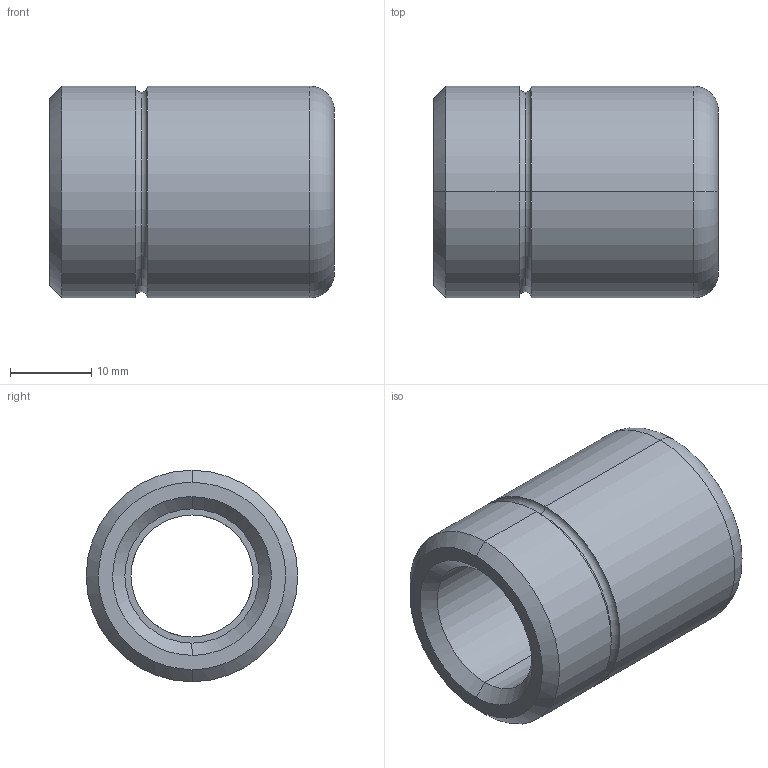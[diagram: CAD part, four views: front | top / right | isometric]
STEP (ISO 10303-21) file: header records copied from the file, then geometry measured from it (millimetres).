
FILE_DESCRIPTION(('CATIA V5 STEP Exchange'),'2;1');
FILE_NAME('C:\Users\Utente\Desktop\IO LAVORO\3D X SITO CF\X SITO\3D files 347\347-15 x 35.stp','2021-01-01T10:06:51+00:00',('none'),('none'),'CATIA Version 5 Release 20 GA (IN-10)','CATIA V5 STEP AP203','none');
FILE_SCHEMA(('CONFIG_CONTROL_DESIGN'));
Length unit declared in the file: millimetre
Products named in the file (1): 347-15 x 35
Bounding box: 35 x 26 x 26 mm (x, y, z)
Volume: 11242.4 mm3; surface area: 5217.6 mm2
Topology: 1 solids, 1 shells, 29 faces, 86 edges, 60 vertices
Faces by surface type: torus 12, cylinder 10, cone 4, plane 3
Entity records: 1142 total; most frequent: CARTESIAN_POINT 332, ORIENTED_EDGE 172, DIRECTION 132, AXIS2_PLACEMENT_3D 90, EDGE_CURVE 86, CIRCLE 60, VERTEX_POINT 60, EDGE_LOOP 32
